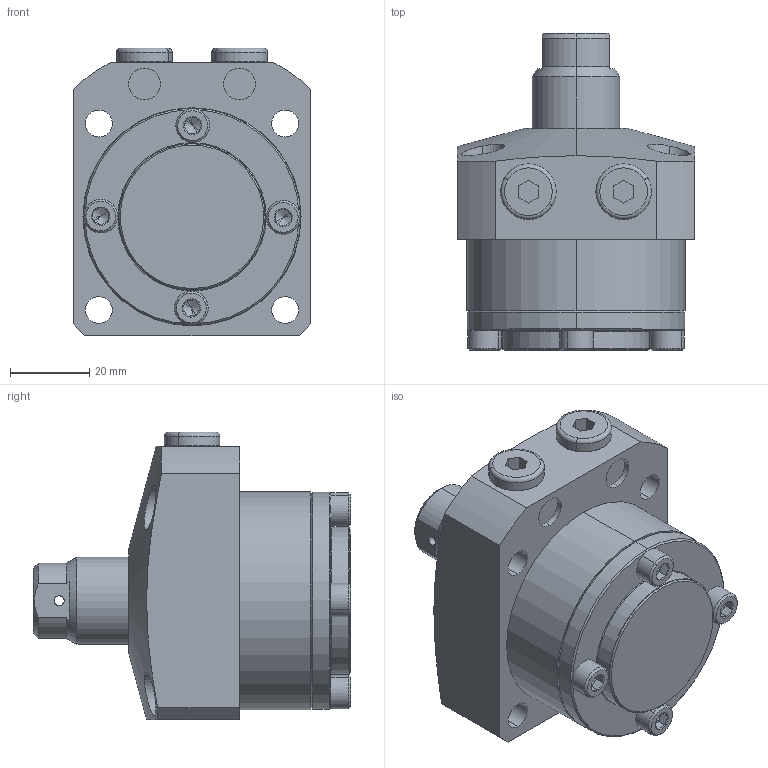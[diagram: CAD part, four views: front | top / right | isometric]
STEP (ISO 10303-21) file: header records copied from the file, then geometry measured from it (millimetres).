
FILE_DESCRIPTION (( 'STEP AP203' ), '1' );
FILE_NAME ('680550-CB-015.step', '2016-11-02T03:23:25', ( 'wxp' ), ( '' ), 'SwSTEP 2.0', 'SolidWorks 2011', '' );
FILE_SCHEMA (( 'CONFIG_CONTROL_DESIGN' ));
Length unit declared in the file: millimetre
Products named in the file (6): 葩璃 68055-CA-15-5^680550-CB-015; 葩璃 68055-CA-15-4^680550-CB-015; 葩璃 68055-CA-15-3^680550-CB-015; 葩璃 68055-CA-15-2^680550-CB-015; 葩璃 68055-CA-15-1^680550-CB-015; 680550-CB-015
Assembly tree (9 placements, depth 2):
  680550-CB-015
    葩璃 68055-CA-15-3^680550-CB-015
    葩璃 68055-CA-15-4^680550-CB-015  x4
    葩璃 68055-CA-15-1^680550-CB-015
    葩璃 68055-CA-15-5^680550-CB-015  x2
    葩璃 68055-CA-15-2^680550-CB-015
Bounding box: 60 x 80 x 72.5 mm (x, y, z)
Volume: 158569.8 mm3; surface area: 33314.8 mm2
Topology: 9 solids, 9 shells, 283 faces, 567 edges, 320 vertices
Faces by surface type: plane 110, cylinder 85, cone 72, torus 16
Entity records: 5720 total; most frequent: CARTESIAN_POINT 1303, DIRECTION 847, ORIENTED_EDGE 698, AXIS2_PLACEMENT_3D 354, EDGE_CURVE 349, VERTEX_POINT 213, EDGE_LOOP 202, CIRCLE 178
